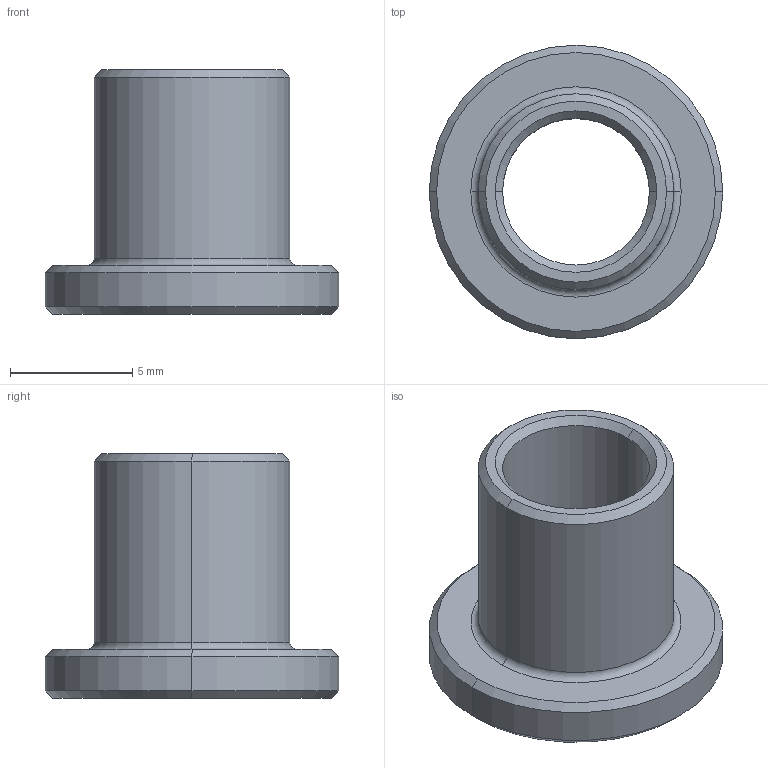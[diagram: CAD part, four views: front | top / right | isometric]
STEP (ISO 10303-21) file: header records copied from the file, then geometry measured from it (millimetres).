
FILE_DESCRIPTION (( 'STEP AP214' ), '1' );
FILE_NAME ('SBNA-8M6.STEP', '2019-11-11T06:39:54', ( '微软用户' ), ( '微软中国' ), 'SwSTEP 2.0', 'SolidWorks 2016', '' );
FILE_SCHEMA (( 'AUTOMOTIVE_DESIGN' ));
Length unit declared in the file: millimetre
Products named in the file (1): SBNA-8M6
Bounding box: 12 x 12 x 10 mm (x, y, z)
Volume: 339.9 mm3; surface area: 607 mm2
Topology: 1 solids, 1 shells, 21 faces, 42 edges, 24 vertices
Faces by surface type: cone 10, cylinder 6, plane 3, torus 2
Entity records: 584 total; most frequent: DIRECTION 112, CARTESIAN_POINT 88, ORIENTED_EDGE 84, AXIS2_PLACEMENT_3D 48, EDGE_CURVE 42, CIRCLE 26, EDGE_LOOP 24, VERTEX_POINT 24
